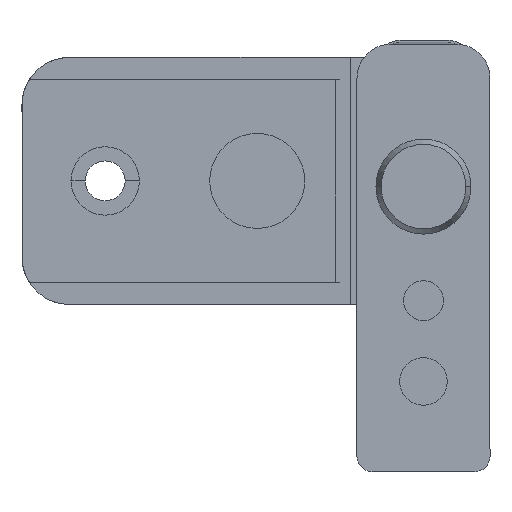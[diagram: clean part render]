
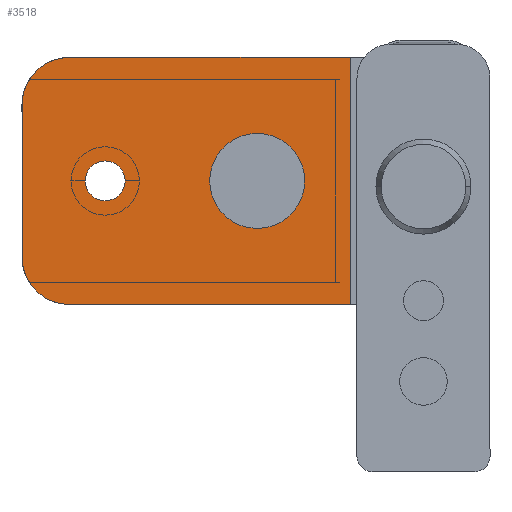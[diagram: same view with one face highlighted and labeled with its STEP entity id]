
A CAD part, front view. The second image highlights one B-rep face of the part: STEP entity #3518.
In plain terms, the highlighted planar face has unit normal (0, -1, 0).
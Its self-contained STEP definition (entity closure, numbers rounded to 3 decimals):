
#195 = VERTEX_POINT ( 'NONE', #1089 ) ;
#207 = VERTEX_POINT ( 'NONE', #1101 ) ;
#232 = VERTEX_POINT ( 'NONE', #657 ) ;
#477 = CARTESIAN_POINT ( 'NONE',  ( -31.4, 597., 0.6 ) ) ;
#507 = PLANE ( 'NONE',  #2709 ) ;
#508 = CARTESIAN_POINT ( 'NONE',  ( -42.25, 597., 13.6 ) ) ;
#509 = DIRECTION ( 'NONE',  ( 0., 1., 0. ) ) ;
#510 = DIRECTION ( 'NONE',  ( -1., 0., 0. ) ) ;
#571 = CARTESIAN_POINT ( 'NONE',  ( -42.25, 597., 13.6 ) ) ;
#572 = DIRECTION ( 'NONE',  ( 0., 0., -1. ) ) ;
#657 = CARTESIAN_POINT ( 'NONE',  ( -37.25, 597., 13.6 ) ) ;
#777 = CARTESIAN_POINT ( 'NONE',  ( -7.7, 597., 13.6 ) ) ;
#780 = CARTESIAN_POINT ( 'NONE',  ( -37.25, 597., -12.4 ) ) ;
#789 = CARTESIAN_POINT ( 'NONE',  ( -7.7, 597., -12.4 ) ) ;
#905 = CIRCLE ( 'NONE', #2668, 2.1 ) ;
#1089 = CARTESIAN_POINT ( 'NONE',  ( -42.25, 597., -7.4 ) ) ;
#1101 = CARTESIAN_POINT ( 'NONE',  ( -35.6, 597., 0.6 ) ) ;
#1288 = CARTESIAN_POINT ( 'NONE',  ( -37.25, 597., -7.4 ) ) ;
#1289 = DIRECTION ( 'NONE',  ( 0., -1., 0. ) ) ;
#1290 = DIRECTION ( 'NONE',  ( -1., 0., 0. ) ) ;
#1300 = CARTESIAN_POINT ( 'NONE',  ( -42.25, 597., 13.6 ) ) ;
#1301 = DIRECTION ( 'NONE',  ( 1., 0., 0. ) ) ;
#1306 = CARTESIAN_POINT ( 'NONE',  ( -33.5, 597., 0.6 ) ) ;
#1307 = DIRECTION ( 'NONE',  ( 0., 1., 0. ) ) ;
#1308 = DIRECTION ( 'NONE',  ( -1., 0., 0. ) ) ;
#1309 = CARTESIAN_POINT ( 'NONE',  ( -42.25, 597., -12.4 ) ) ;
#1310 = DIRECTION ( 'NONE',  ( 1., 0., 0. ) ) ;
#1311 = CARTESIAN_POINT ( 'NONE',  ( -7.7, 597., 13.6 ) ) ;
#1312 = DIRECTION ( 'NONE',  ( 0., 0., -1. ) ) ;
#1313 = CARTESIAN_POINT ( 'NONE',  ( -37.25, 597., 8.6 ) ) ;
#1314 = DIRECTION ( 'NONE',  ( 0., -1., 0. ) ) ;
#1315 = DIRECTION ( 'NONE',  ( -1., 0., 0. ) ) ;
#1446 = ORIENTED_EDGE ( 'NONE', *, *, #2347, .T. ) ;
#1447 = ORIENTED_EDGE ( 'NONE', *, *, #2341, .F. ) ;
#1448 = ORIENTED_EDGE ( 'NONE', *, *, #2346, .F. ) ;
#1449 = ORIENTED_EDGE ( 'NONE', *, *, #2345, .T. ) ;
#1450 = ORIENTED_EDGE ( 'NONE', *, *, #2448, .T. ) ;
#1451 = ORIENTED_EDGE ( 'NONE', *, *, #2336, .T. ) ;
#1480 = ORIENTED_EDGE ( 'NONE', *, *, #1597, .T. ) ;
#1481 = ORIENTED_EDGE ( 'NONE', *, *, #2344, .T. ) ;
#1496 = CARTESIAN_POINT ( 'NONE',  ( -33.5, 597., 0.6 ) ) ;
#1497 = DIRECTION ( 'NONE',  ( 0., 1., 0. ) ) ;
#1498 = DIRECTION ( 'NONE',  ( -1., 0., 0. ) ) ;
#1560 = CARTESIAN_POINT ( 'NONE',  ( -42.25, 597., 8.6 ) ) ;
#1597 = EDGE_CURVE ( 'NONE', #3502, #207, #905, .T. ) ;
#1662 = VERTEX_POINT ( 'NONE', #1560 ) ;
#2336 = EDGE_CURVE ( 'NONE', #195, #4598, #3979, .T. ) ;
#2341 = EDGE_CURVE ( 'NONE', #232, #4595, #3987, .T. ) ;
#2344 = EDGE_CURVE ( 'NONE', #207, #3502, #3994, .T. ) ;
#2345 = EDGE_CURVE ( 'NONE', #4598, #4607, #3993, .T. ) ;
#2346 = EDGE_CURVE ( 'NONE', #4595, #4607, #3996, .T. ) ;
#2347 = EDGE_CURVE ( 'NONE', #232, #1662, #3999, .T. ) ;
#2448 = EDGE_CURVE ( 'NONE', #1662, #195, #4085, .T. ) ;
#2668 = AXIS2_PLACEMENT_3D ( 'NONE', #1496, #1497, #1498 ) ;
#2677 = AXIS2_PLACEMENT_3D ( 'NONE', #1288, #1289, #1290 ) ;
#2679 = AXIS2_PLACEMENT_3D ( 'NONE', #1306, #1307, #1308 ) ;
#2680 = AXIS2_PLACEMENT_3D ( 'NONE', #1313, #1314, #1315 ) ;
#2709 = AXIS2_PLACEMENT_3D ( 'NONE', #508, #509, #510 ) ;
#3312 = EDGE_LOOP ( 'NONE', ( #1450, #1451, #1449, #1448, #1447, #1446 ) ) ;
#3313 = EDGE_LOOP ( 'NONE', ( #1481, #1480 ) ) ;
#3502 = VERTEX_POINT ( 'NONE', #477 ) ;
#3518 = ADVANCED_FACE ( 'NONE', ( #4106, #4107 ), #507, .F. ) ;
#3979 = CIRCLE ( 'NONE', #2677, 5. ) ;
#3987 = LINE ( 'NONE', #1300, #3988 ) ;
#3988 = VECTOR ( 'NONE', #1301, 1000. ) ;
#3993 = LINE ( 'NONE', #1309, #3995 ) ;
#3994 = CIRCLE ( 'NONE', #2679, 2.1 ) ;
#3995 = VECTOR ( 'NONE', #1310, 1000. ) ;
#3996 = LINE ( 'NONE', #1311, #3997 ) ;
#3997 = VECTOR ( 'NONE', #1312, 1000. ) ;
#3999 = CIRCLE ( 'NONE', #2680, 5. ) ;
#4085 = LINE ( 'NONE', #571, #4086 ) ;
#4086 = VECTOR ( 'NONE', #572, 1000. ) ;
#4106 = FACE_BOUND ( 'NONE', #3313, .T. ) ;
#4107 = FACE_OUTER_BOUND ( 'NONE', #3312, .T. ) ;
#4595 = VERTEX_POINT ( 'NONE', #777 ) ;
#4598 = VERTEX_POINT ( 'NONE', #780 ) ;
#4607 = VERTEX_POINT ( 'NONE', #789 ) ;
